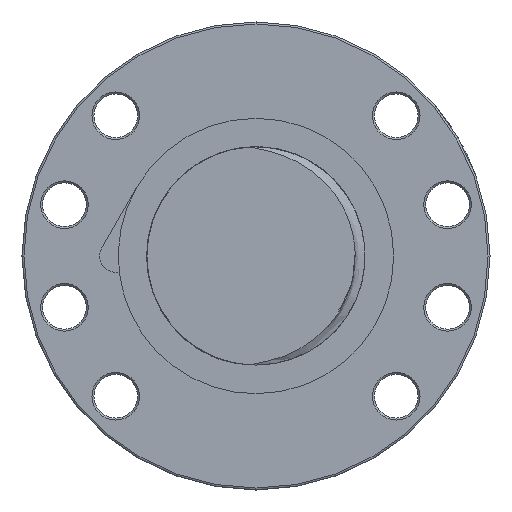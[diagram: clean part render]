
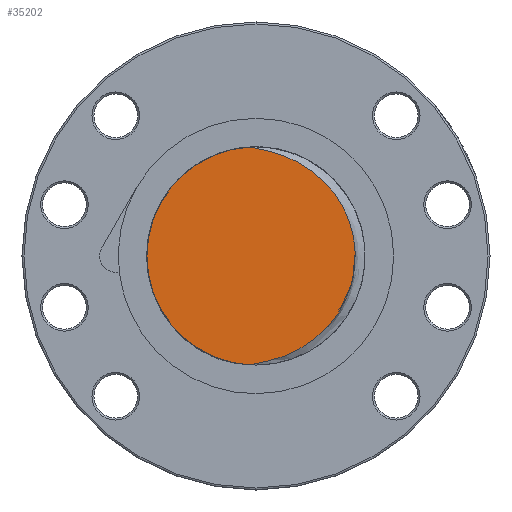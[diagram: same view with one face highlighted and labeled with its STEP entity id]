
A CAD part, left-side view. The second image highlights one B-rep face of the part: STEP entity #35202.
In plain terms, the highlighted planar face has unit normal (-1, 0, 0).
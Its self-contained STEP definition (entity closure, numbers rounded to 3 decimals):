
#2210 = CARTESIAN_POINT ( 'NONE',  ( -234., 0., 0. ) ) ;
#2283 = DIRECTION ( 'NONE',  ( 0., 1., 0. ) ) ;
#2284 = DIRECTION ( 'NONE',  ( 1., 0., 0. ) ) ;
#2285 = AXIS2_PLACEMENT_3D ( 'NONE', #2210, #2284, #2283 ) ;
#2286 = CIRCLE ( 'NONE', #2285, 27.5 ) ;
#2475 = CARTESIAN_POINT ( 'NONE',  ( -234., 1.501, 27.459 ) ) ;
#2902 = CARTESIAN_POINT ( 'NONE',  ( -234., 1.501, -27.459 ) ) ;
#13094 = DIRECTION ( 'NONE',  ( 0., 0., -1. ) ) ;
#13095 = DIRECTION ( 'NONE',  ( 1., 0., 0. ) ) ;
#13096 = CARTESIAN_POINT ( 'NONE',  ( -234., 0., 0. ) ) ;
#13101 = PLANE ( 'NONE',  #13103 ) ;
#13103 = AXIS2_PLACEMENT_3D ( 'NONE', #13096, #13095, #13094 ) ;
#13104 = FACE_OUTER_BOUND ( 'NONE', #35204, .T. ) ;
#13153 = CARTESIAN_POINT ( 'NONE',  ( -234., -25.013, -0.884 ) ) ;
#13154 = CARTESIAN_POINT ( 'NONE',  ( -234., -24.969, -1.757 ) ) ;
#13155 = CARTESIAN_POINT ( 'NONE',  ( -234., -24.936, -2.196 ) ) ;
#13156 = CARTESIAN_POINT ( 'NONE',  ( -234., -24.804, -3.502 ) ) ;
#13157 = CARTESIAN_POINT ( 'NONE',  ( -234., -24.674, -4.362 ) ) ;
#13158 = CARTESIAN_POINT ( 'NONE',  ( -234., -24.158, -6.91 ) ) ;
#13159 = CARTESIAN_POINT ( 'NONE',  ( -234., -23.648, -8.565 ) ) ;
#13160 = CARTESIAN_POINT ( 'NONE',  ( -234., -22.802, -10.581 ) ) ;
#13161 = CARTESIAN_POINT ( 'NONE',  ( -234., -22.622, -10.982 ) ) ;
#13162 = CARTESIAN_POINT ( 'NONE',  ( -234., -22.244, -11.771 ) ) ;
#13163 = CARTESIAN_POINT ( 'NONE',  ( -234., -22.046, -12.159 ) ) ;
#13164 = CARTESIAN_POINT ( 'NONE',  ( -234., -21.426, -13.306 ) ) ;
#13165 = CARTESIAN_POINT ( 'NONE',  ( -234., -20.976, -14.046 ) ) ;
#13166 = CARTESIAN_POINT ( 'NONE',  ( -234., -20.009, -15.478 ) ) ;
#13167 = CARTESIAN_POINT ( 'NONE',  ( -234., -19.49, -16.171 ) ) ;
#13168 = CARTESIAN_POINT ( 'NONE',  ( -234., -18.385, -17.509 ) ) ;
#13169 = CARTESIAN_POINT ( 'NONE',  ( -234., -17.797, -18.156 ) ) ;
#13170 = CARTESIAN_POINT ( 'NONE',  ( -234., -15.935, -20.013 ) ) ;
#13171 = CARTESIAN_POINT ( 'NONE',  ( -234., -14.59, -21.116 ) ) ;
#13172 = CARTESIAN_POINT ( 'NONE',  ( -234., -12.428, -22.581 ) ) ;
#13173 = CARTESIAN_POINT ( 'NONE',  ( -234., -11.681, -23.038 ) ) ;
#13174 = CARTESIAN_POINT ( 'NONE',  ( -234., -10.147, -23.884 ) ) ;
#13175 = CARTESIAN_POINT ( 'NONE',  ( -234., -9.365, -24.271 ) ) ;
#13176 = CARTESIAN_POINT ( 'NONE',  ( -234., -7.772, -24.973 ) ) ;
#13177 = CARTESIAN_POINT ( 'NONE',  ( -234., -6.961, -25.289 ) ) ;
#13178 = CARTESIAN_POINT ( 'NONE',  ( -234., -5.313, -25.858 ) ) ;
#13179 = CARTESIAN_POINT ( 'NONE',  ( -234., -4.475, -26.11 ) ) ;
#13180 = CARTESIAN_POINT ( 'NONE',  ( -234., -2.781, -26.556 ) ) ;
#13181 = CARTESIAN_POINT ( 'NONE',  ( -234., -1.927, -26.749 ) ) ;
#13182 = CARTESIAN_POINT ( 'NONE',  ( -234., -0.641, -27.014 ) ) ;
#13183 = CARTESIAN_POINT ( 'NONE',  ( -234., -0.212, -27.098 ) ) ;
#13184 = CARTESIAN_POINT ( 'NONE',  ( -234., 0.647, -27.269 ) ) ;
#13185 = CARTESIAN_POINT ( 'NONE',  ( -234., 1.077, -27.354 ) ) ;
#13186 = CARTESIAN_POINT ( 'NONE',  ( -234., 1.501, -27.459 ) ) ;
#13187 = B_SPLINE_CURVE_WITH_KNOTS ( 'NONE', 3,
 ( #13186, #13185, #13184, #13183, #13182, #13181, #13180, #13179, #13178, #13177, #13176, #13175, #13174, #13173, #13172, #13171, #13170, #13169, #13168, #13167, #13166, #13165, #13164, #13163, #13162, #13161, #13160, #13159, #13158, #13157, #13156, #13155, #13154, #13153, #13228, #13227, #13226, #13225, #13224, #13223, #13222, #13221, #13220, #13219, #13218, #13217, #13216, #13215, #13214, #13213, #13212, #13211, #13210, #13209, #13208, #13207, #13206, #13205, #13204, #13203, #13202, #13201 ),
 .UNSPECIFIED., .F., .F.,
 ( 4, 2, 2, 2, 2, 2, 2, 2, 2, 2, 2, 2, 2, 2, 2, 2, 2, 2, 2, 2, 2, 2, 2, 2, 2, 2, 2, 2, 2, 2, 4 ),
 ( 0.001, 0.002, 0.004, 0.006, 0.009, 0.012, 0.014, 0.017, 0.022, 0.025, 0.027, 0.03, 0.031, 0.032, 0.038, 0.04, 0.042, 0.043, 0.048, 0.051, 0.053, 0.059, 0.064, 0.066, 0.069, 0.072, 0.074, 0.079, 0.082, 0.083, 0.085 ),
 .UNSPECIFIED. ) ;
#13201 = CARTESIAN_POINT ( 'NONE',  ( -234., 1.501, 27.459 ) ) ;
#13202 = CARTESIAN_POINT ( 'NONE',  ( -234., 1.076, 27.353 ) ) ;
#13203 = CARTESIAN_POINT ( 'NONE',  ( -234., 0.646, 27.268 ) ) ;
#13204 = CARTESIAN_POINT ( 'NONE',  ( -234., -0.213, 27.097 ) ) ;
#13205 = CARTESIAN_POINT ( 'NONE',  ( -234., -0.643, 27.012 ) ) ;
#13206 = CARTESIAN_POINT ( 'NONE',  ( -234., -1.931, 26.748 ) ) ;
#13207 = CARTESIAN_POINT ( 'NONE',  ( -234., -2.786, 26.555 ) ) ;
#13208 = CARTESIAN_POINT ( 'NONE',  ( -234., -5.33, 25.885 ) ) ;
#13209 = CARTESIAN_POINT ( 'NONE',  ( -234., -6.983, 25.321 ) ) ;
#13210 = CARTESIAN_POINT ( 'NONE',  ( -234., -9.383, 24.261 ) ) ;
#13211 = CARTESIAN_POINT ( 'NONE',  ( -234., -10.172, 23.871 ) ) ;
#13212 = CARTESIAN_POINT ( 'NONE',  ( -234., -11.703, 23.026 ) ) ;
#13213 = CARTESIAN_POINT ( 'NONE',  ( -234., -12.447, 22.569 ) ) ;
#13214 = CARTESIAN_POINT ( 'NONE',  ( -234., -13.894, 21.587 ) ) ;
#13215 = CARTESIAN_POINT ( 'NONE',  ( -234., -14.598, 21.059 ) ) ;
#13216 = CARTESIAN_POINT ( 'NONE',  ( -234., -15.944, 19.948 ) ) ;
#13217 = CARTESIAN_POINT ( 'NONE',  ( -234., -16.587, 19.364 ) ) ;
#13218 = CARTESIAN_POINT ( 'NONE',  ( -234., -18.426, 17.527 ) ) ;
#13219 = CARTESIAN_POINT ( 'NONE',  ( -234., -19.532, 16.189 ) ) ;
#13220 = CARTESIAN_POINT ( 'NONE',  ( -234., -21.493, 13.275 ) ) ;
#13221 = CARTESIAN_POINT ( 'NONE',  ( -234., -22.316, 11.747 ) ) ;
#13222 = CARTESIAN_POINT ( 'NONE',  ( -234., -23.319, 9.349 ) ) ;
#13223 = CARTESIAN_POINT ( 'NONE',  ( -234., -23.614, 8.532 ) ) ;
#13224 = CARTESIAN_POINT ( 'NONE',  ( -234., -24.126, 6.863 ) ) ;
#13225 = CARTESIAN_POINT ( 'NONE',  ( -234., -24.342, 6.008 ) ) ;
#13226 = CARTESIAN_POINT ( 'NONE',  ( -234., -24.856, 3.447 ) ) ;
#13227 = CARTESIAN_POINT ( 'NONE',  ( -234., -25.026, 1.724 ) ) ;
#13228 = CARTESIAN_POINT ( 'NONE',  ( -234., -25.024, -0.449 ) ) ;
#29553 = EDGE_CURVE ( 'NONE', #29634, #29576, #2286, .T. ) ;
#29576 = VERTEX_POINT ( 'NONE', #2475 ) ;
#29634 = VERTEX_POINT ( 'NONE', #2902 ) ;
#35202 = ADVANCED_FACE ( 'NONE', ( #13104 ), #13101, .F. ) ;
#35204 = EDGE_LOOP ( 'NONE', ( #35214, #35215 ) ) ;
#35214 = ORIENTED_EDGE ( 'NONE', *, *, #29553, .F. ) ;
#35215 = ORIENTED_EDGE ( 'NONE', *, *, #35216, .T. ) ;
#35216 = EDGE_CURVE ( 'NONE', #29634, #29576, #13187, .T. ) ;
